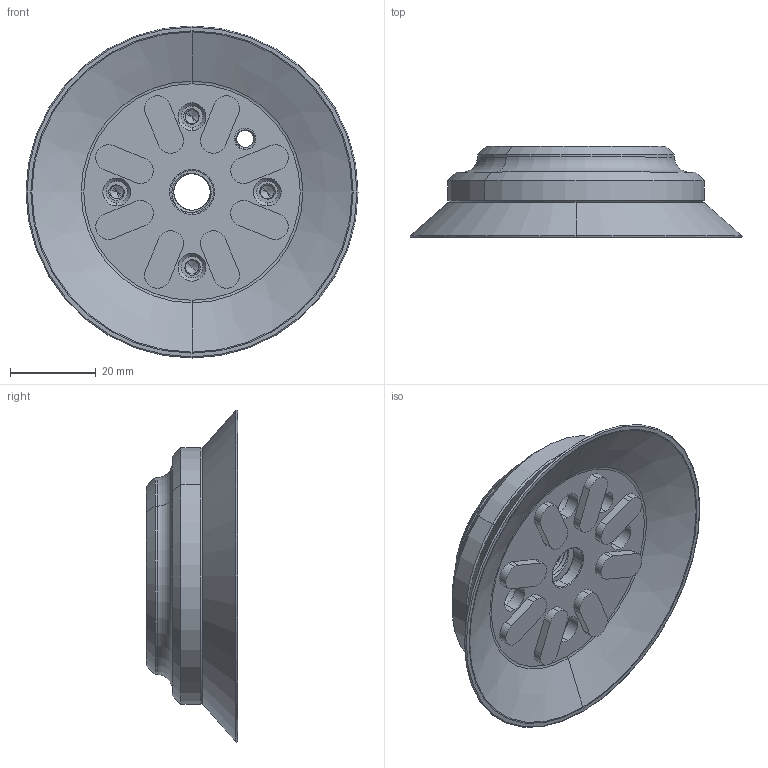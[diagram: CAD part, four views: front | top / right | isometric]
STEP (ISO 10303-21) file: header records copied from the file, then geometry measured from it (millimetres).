
FILE_DESCRIPTION (( 'STEP AP214' ), '1' );
FILE_NAME ('90_75--18.step', '2024-12-12T07:29:03', ( '' ), ( '' ), 'SwSTEP 2.0', 'SolidWorks 2021', '' );
FILE_SCHEMA (( 'AUTOMOTIVE_DESIGN' ));
Length unit declared in the file: millimetre
Products named in the file (1): 90_75--18
Bounding box: 77.25 x 21.2 x 77.25 mm (x, y, z)
Volume: 42830.1 mm3; surface area: 27854.4 mm2
Topology: 3 solids, 3 shells, 354 faces, 885 edges, 553 vertices
Faces by surface type: cylinder 199, cone 60, plane 49, torus 34, bspline 12
Entity records: 25543 total; most frequent: CARTESIAN_POINT 17514, ORIENTED_EDGE 1742, DIRECTION 1603, EDGE_CURVE 871, AXIS2_PLACEMENT_3D 649, VERTEX_POINT 553, EDGE_LOOP 412, FACE_OUTER_BOUND 354
